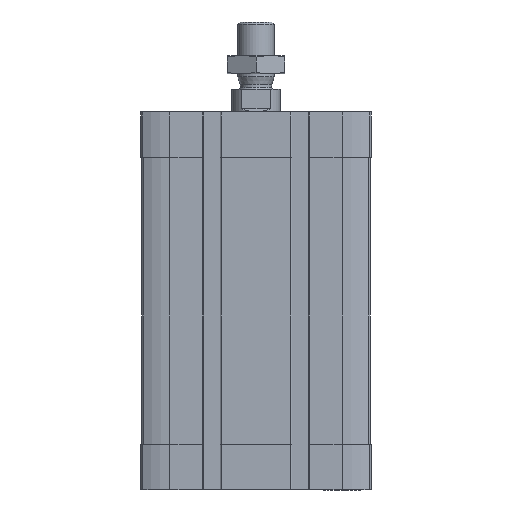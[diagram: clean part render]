
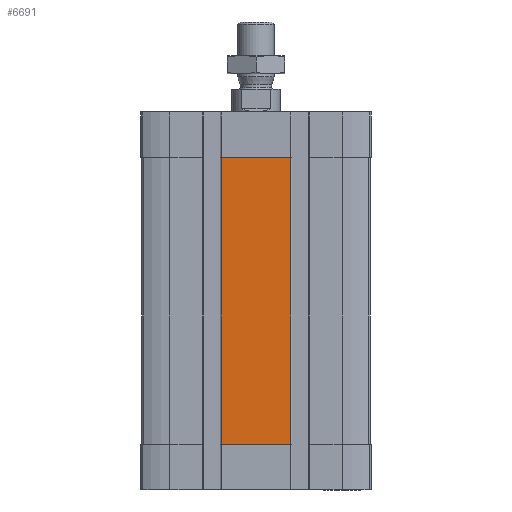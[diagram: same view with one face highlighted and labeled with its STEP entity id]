
A CAD part, front view. The second image highlights one B-rep face of the part: STEP entity #6691.
In plain terms, the highlighted planar face has unit normal (0, -1, 0).
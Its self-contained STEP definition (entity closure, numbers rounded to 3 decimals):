
#42 = CARTESIAN_POINT ( 'NONE',  ( 11.4, -37.5, -109. ) ) ;
#713 = EDGE_CURVE ( 'NONE', #8897, #910, #926, .T. ) ;
#910 = VERTEX_POINT ( 'NONE', #11118 ) ;
#926 = LINE ( 'NONE', #12366, #9645 ) ;
#1357 = CARTESIAN_POINT ( 'NONE',  ( -11.4, -37.5, -109. ) ) ;
#1694 = VERTEX_POINT ( 'NONE', #42 ) ;
#1836 = DIRECTION ( 'NONE',  ( -1., 0., 0. ) ) ;
#2957 = CARTESIAN_POINT ( 'NONE',  ( 11.4, -37.5, -15. ) ) ;
#3927 = DIRECTION ( 'NONE',  ( 1., 0., 0. ) ) ;
#4037 = VECTOR ( 'NONE', #1836, 1000. ) ;
#5002 = DIRECTION ( 'NONE',  ( 0., 0., -1. ) ) ;
#5162 = DIRECTION ( 'NONE',  ( 0., 0., -1. ) ) ;
#6216 = CARTESIAN_POINT ( 'NONE',  ( -11.4, -37.5, -109. ) ) ;
#6691 = ADVANCED_FACE ( 'NONE', ( #15409 ), #14821, .T. ) ;
#6895 = CARTESIAN_POINT ( 'NONE',  ( 0., -37.5, -15. ) ) ;
#7415 = LINE ( 'NONE', #6895, #4037 ) ;
#7597 = LINE ( 'NONE', #11331, #13733 ) ;
#7694 = ORIENTED_EDGE ( 'NONE', *, *, #12478, .T. ) ;
#8403 = ORIENTED_EDGE ( 'NONE', *, *, #8692, .T. ) ;
#8692 = EDGE_CURVE ( 'NONE', #910, #1694, #12547, .T. ) ;
#8897 = VERTEX_POINT ( 'NONE', #9364 ) ;
#9280 = VECTOR ( 'NONE', #3927, 1000. ) ;
#9364 = CARTESIAN_POINT ( 'NONE',  ( -11.4, -37.5, -15. ) ) ;
#9413 = ORIENTED_EDGE ( 'NONE', *, *, #12805, .T. ) ;
#9613 = ORIENTED_EDGE ( 'NONE', *, *, #713, .T. ) ;
#9645 = VECTOR ( 'NONE', #5162, 1000. ) ;
#9796 = EDGE_LOOP ( 'NONE', ( #8403, #9413, #7694, #9613 ) ) ;
#10105 = DIRECTION ( 'NONE',  ( 0., 0., 1. ) ) ;
#11118 = CARTESIAN_POINT ( 'NONE',  ( -11.4, -37.5, -109. ) ) ;
#11331 = CARTESIAN_POINT ( 'NONE',  ( 11.4, -37.5, -109. ) ) ;
#11373 = AXIS2_PLACEMENT_3D ( 'NONE', #6216, #12442, #5002 ) ;
#12366 = CARTESIAN_POINT ( 'NONE',  ( -11.4, -37.5, -109. ) ) ;
#12442 = DIRECTION ( 'NONE',  ( 0., -1., 0. ) ) ;
#12478 = EDGE_CURVE ( 'NONE', #13515, #8897, #7415, .T. ) ;
#12547 = LINE ( 'NONE', #1357, #9280 ) ;
#12805 = EDGE_CURVE ( 'NONE', #1694, #13515, #7597, .T. ) ;
#13515 = VERTEX_POINT ( 'NONE', #2957 ) ;
#13733 = VECTOR ( 'NONE', #10105, 1000. ) ;
#14821 = PLANE ( 'NONE',  #11373 ) ;
#15409 = FACE_OUTER_BOUND ( 'NONE', #9796, .T. ) ;
